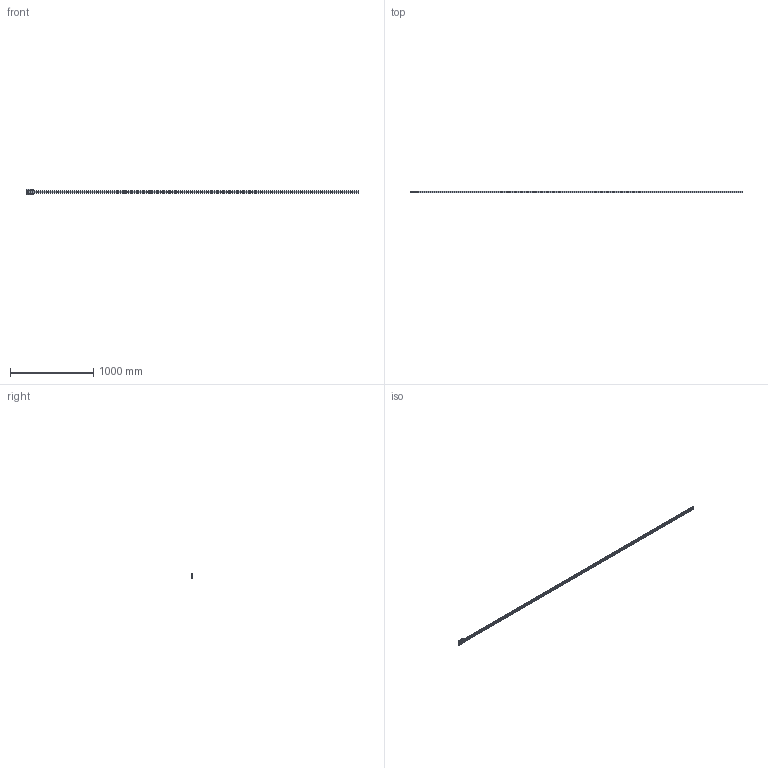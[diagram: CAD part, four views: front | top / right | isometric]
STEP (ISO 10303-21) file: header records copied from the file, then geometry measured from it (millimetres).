
FILE_DESCRIPTION( ( 'STEP AP203' ), '1' );
FILE_NAME( 'p:/temp/worker_20/temp/exporttempdir_3204_33_Y2V78/format_0/FDG15 84395LN_4000-0-0.stp', '2021-04-27T06:38:43', ( 'License CC BY-ND 4.0' ), ( 'CADENAS' ), ' ', 'PARTsolutions', ' ' );
FILE_SCHEMA( ( 'CONFIG_CONTROL_DESIGN' ) );
Length unit declared in the file: millimetre
Products named in the file (5): FDG15 84395LN_4000-0-0; _FD_15R 4000-0-0; _FD_15R Rollenhalter_1; _FD_15R 4000-0-0_2; _FD_15R Rollenhalter_2
Assembly tree (4 placements, depth 2):
  FDG15 84395LN_4000-0-0
    _FD_15R 4000-0-0
    _FD_15R Rollenhalter_1
    _FD_15R 4000-0-0_2
    _FD_15R Rollenhalter_2
Bounding box: 4000 x 24 x 61.8 mm (x, y, z)
Volume: 2012456.7 mm3; surface area: 622142.1 mm2
Topology: 4 solids, 4 shells, 877 faces, 2303 edges, 1570 vertices
Faces by surface type: plane 498, cylinder 366, cone 12, torus 1
Full cylindrical faces by diameter (mm): 3.242 x8, 3.25 x1, 4.134 x4, 4.5 x134, 8 x134, 10 x1
Entity records: 25257 total; most frequent: DIRECTION 4363, CARTESIAN_POINT 4219, ORIENTED_EDGE 3712, EDGE_CURVE 1856, AXIS2_PLACEMENT_3D 1636, EDGE_LOOP 1582, VERTEX_POINT 1424, FACE_OUTER_BOUND 1160
